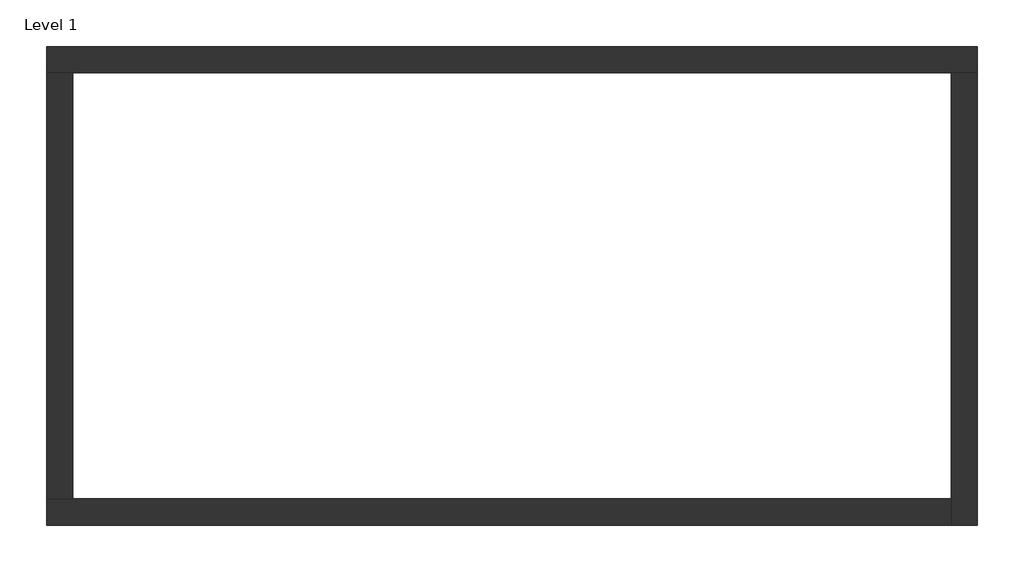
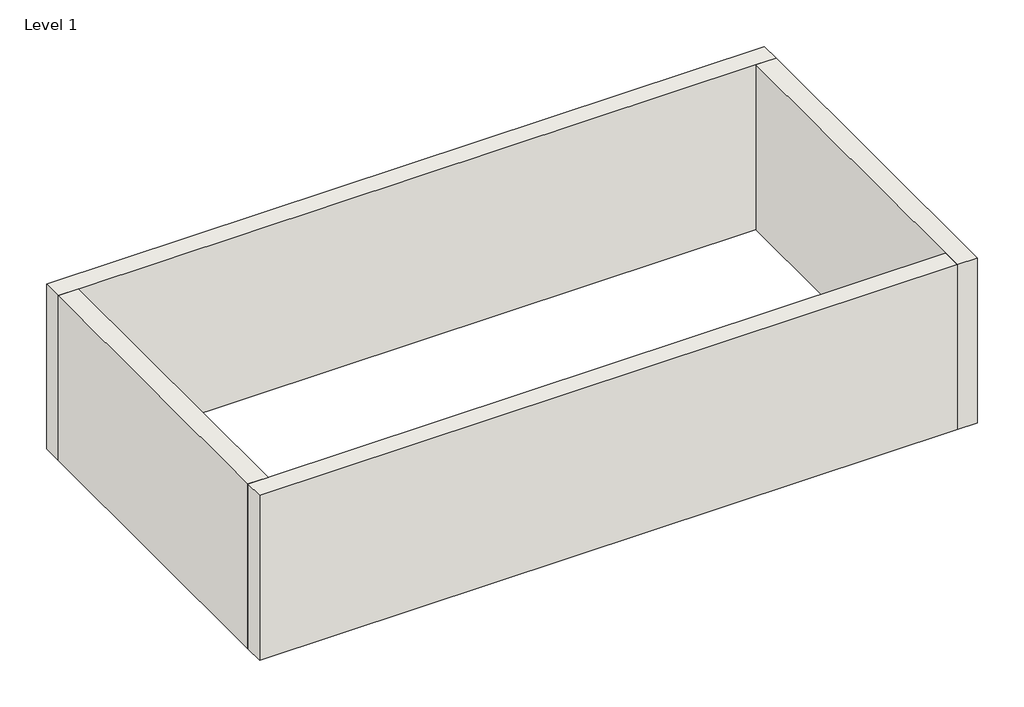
# One storey: 4 walls.
"""IFC4 building model written with IfcOpenShell, lengths in millimetres."""

from ifc_helpers import new_model, si_unit, origin, origin_with_axes, place, context, project, spatial, polyline, outline, extrude, faceted_brep, element, save

model = new_model("IFC4")

# Units and contexts
model_context = context("Model", 3, world=origin())
ifc_project = project(units=[si_unit("LENGTHUNIT", "METRE", prefix="MILLI")], contexts=[model_context])

# Site, building, storey
site = spatial("IfcSite", under=ifc_project)
building = spatial("IfcBuilding", under=site)
storey = spatial("IfcBuildingStorey", under=building, Name="Level 1", Elevation=0.0)

# Walls
placement = place(None, origin())
element("IfcWall", 1, ObjectType="Exterior - Brick on Mtl. Stud", at=placement, inside=storey, context=model_context, shape_type="Brep", body=[
    faceted_brep([(-4587.7696388, 5924.893319, 0.0), (-4235.3446388, 5924.893319, 0.0), (7604.2303612, 5924.893319, 0.0), (7956.6553612, 5924.893319, 0.0), (7956.6553612, 5924.893319, 3048.0), (7604.2303612, 5924.893319, 3048.0), (-4235.3446388, 5924.893319, 3048.0), (-4587.7696388, 5924.893319, 3048.0), (-4587.7696388, 6277.318319, 0.0), (-4587.7696388, 6277.318319, 3048.0), (7956.6553612, 6277.318319, 3048.0), (7956.6553612, 6277.318319, 0.0)], [[[0, 1, 2, 3, 4, 5, 6, 7]], [[8, 9, 10, 11]], [[3, 2, 1, 0, 8, 11]], [[7, 6, 5, 4, 10, 9]], [[4, 3, 11, 10]], [[0, 7, 9, 8]]]),
])
element("IfcWall", 2, ObjectType="Exterior - Brick on Mtl. Stud", at=placement, inside=storey, context=model_context, shape_type="Brep", body=[
    faceted_brep([(7604.2303612, 5924.893319, 0.0), (7604.2303612, 181.318319, 0.0), (7604.2303612, -171.106681, 0.0), (7604.2303612, -171.106681, 3048.0), (7604.2303612, 181.318319, 3048.0), (7604.2303612, 5924.893319, 3048.0), (7956.6553612, 5924.893319, 0.0), (7956.6553612, 5924.893319, 3048.0), (7956.6553612, -171.106681, 3048.0), (7956.6553612, -171.106681, 0.0)], [[[0, 1, 2, 3, 4, 5]], [[6, 7, 8, 9]], [[2, 1, 0, 6, 9]], [[5, 4, 3, 8, 7]], [[0, 5, 7, 6]], [[3, 2, 9, 8]]]),
])
element("IfcWall", 3, ObjectType="Exterior - Brick on Mtl. Stud", at=placement, inside=storey, context=model_context, shape_type="Brep", body=[
    faceted_brep([(7604.2303612, 181.318319, 0.0), (-4235.3446388, 181.318319, 0.0), (-4587.7696388, 181.318319, 0.0), (-4587.7696388, 181.318319, 3048.0), (-4235.3446388, 181.318319, 3048.0), (7604.2303612, 181.318319, 3048.0), (7604.2303612, -171.106681, 0.0), (7604.2303612, -171.106681, 3048.0), (-4587.7696388, -171.106681, 3048.0), (-4587.7696388, -171.106681, 0.0)], [[[0, 1, 2, 3, 4, 5]], [[6, 7, 8, 9]], [[2, 1, 0, 6, 9]], [[5, 4, 3, 8, 7]], [[0, 5, 7, 6]], [[3, 2, 9, 8]]]),
])
element("IfcWall", 4, ObjectType="Exterior - Brick on Mtl. Stud", at=placement, inside=storey, context=model_context, shape_type="SweptSolid", body=[
    extrude(outline(polyline([(-4235.3446388, 5924.893319), (-4235.3446388, 181.318319), (-4587.7696388, 181.318319), (-4587.7696388, 5924.893319), (-4235.3446388, 5924.893319)])), origin_with_axes(), (0.0, 0.0, 1.0), 3048.0),
])

save(model, "model.ifc")
